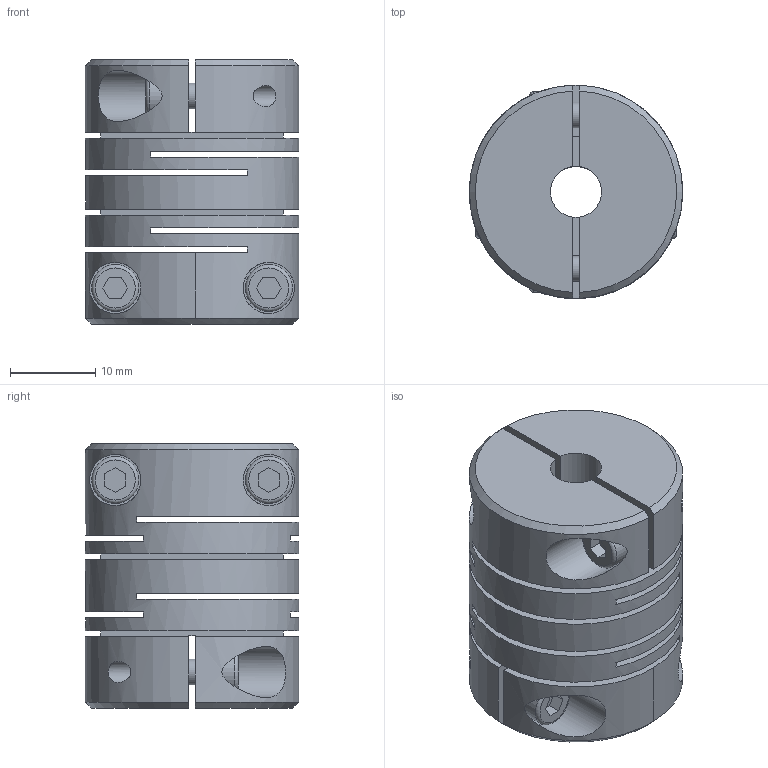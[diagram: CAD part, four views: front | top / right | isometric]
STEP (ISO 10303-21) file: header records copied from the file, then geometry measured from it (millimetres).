
FILE_DESCRIPTION (( 'STEP AP214' ), '1' );
FILE_NAME ('2246-25-B6-6-NI.step', '2022-05-27T09:30:57', ( '' ), ( '' ), 'SwSTEP 2.0', 'SolidWorks 2019', '' );
FILE_SCHEMA (( 'AUTOMOTIVE_DESIGN' ));
Length unit declared in the file: millimetre
Products named in the file (1): 2246-25-B6-6-NI
Bounding box: 25 x 24.99 x 31 mm (x, y, z)
Volume: 11954.1 mm3; surface area: 9651.6 mm2
Topology: 1 solids, 1 shells, 121 faces, 304 edges, 205 vertices
Faces by surface type: plane 78, cylinder 31, cone 8, torus 4
Full cylindrical faces by diameter (mm): 2.5 x4, 3 x4, 3.3 x4, 5.5 x4, 6 x9, 25 x1
Entity records: 4260 total; most frequent: CARTESIAN_POINT 969, DIRECTION 544, ORIENTED_EDGE 472, EDGE_CURVE 236, AXIS2_PLACEMENT_3D 203, EDGE_LOOP 196, VERTEX_POINT 176, FACE_OUTER_BOUND 150
